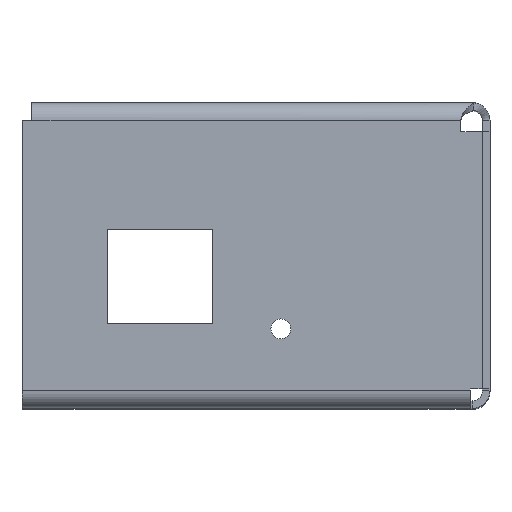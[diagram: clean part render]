
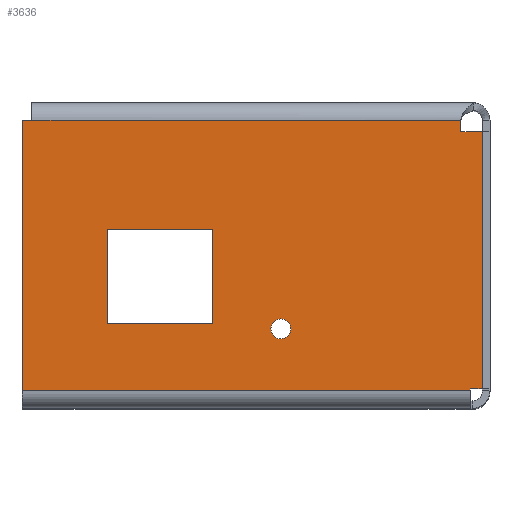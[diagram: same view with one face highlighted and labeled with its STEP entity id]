
A CAD part, top view. The second image highlights one B-rep face of the part: STEP entity #3636.
In plain terms, the highlighted planar face has unit normal (0, 0, 1).
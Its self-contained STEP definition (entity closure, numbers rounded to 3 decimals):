
#5 = CARTESIAN_POINT ( 'NONE',  ( -0.245, 23.91, 7.31 ) ) ;
#45 = CARTESIAN_POINT ( 'NONE',  ( -21.603, -0.85, 7.31 ) ) ;
#182 = FACE_BOUND ( 'NONE', #2610, .T. ) ;
#192 = VERTEX_POINT ( 'NONE', #1110 ) ;
#212 = VERTEX_POINT ( 'NONE', #5 ) ;
#303 = CARTESIAN_POINT ( 'NONE',  ( -0.245, 0., 7.31 ) ) ;
#306 = VERTEX_POINT ( 'NONE', #2447 ) ;
#316 = VECTOR ( 'NONE', #599, 1000. ) ;
#370 = CARTESIAN_POINT ( 'NONE',  ( 0.955, 0., 7.31 ) ) ;
#396 = VECTOR ( 'NONE', #1533, 1000. ) ;
#434 = EDGE_CURVE ( 'NONE', #1224, #3633, #1261, .T. ) ;
#523 = VECTOR ( 'NONE', #4212, 1000. ) ;
#572 = DIRECTION ( 'NONE',  ( 1., 0., 0. ) ) ;
#599 = DIRECTION ( 'NONE',  ( 0., -1., 0. ) ) ;
#669 = CARTESIAN_POINT ( 'NONE',  ( -31.4, 0., 7.31 ) ) ;
#675 = DIRECTION ( 'NONE',  ( 0., -1., 0. ) ) ;
#718 = ORIENTED_EDGE ( 'NONE', *, *, #3147, .F. ) ;
#731 = VERTEX_POINT ( 'NONE', #1472 ) ;
#806 = DIRECTION ( 'NONE',  ( 1., 0., 0. ) ) ;
#808 = CARTESIAN_POINT ( 'NONE',  ( -55.34, -8.6, 7.31 ) ) ;
#846 = EDGE_CURVE ( 'NONE', #3486, #2063, #3468, .T. ) ;
#954 = CARTESIAN_POINT ( 'NONE',  ( 0., 0., 7.31 ) ) ;
#959 = EDGE_CURVE ( 'NONE', #1501, #1224, #2314, .T. ) ;
#1110 = CARTESIAN_POINT ( 'NONE',  ( -31.4, 11.65, 7.31 ) ) ;
#1160 = CARTESIAN_POINT ( 'NONE',  ( -55.34, 25.35, 7.31 ) ) ;
#1162 = VECTOR ( 'NONE', #4500, 1000. ) ;
#1213 = EDGE_CURVE ( 'NONE', #4198, #4221, #2456, .T. ) ;
#1219 = ORIENTED_EDGE ( 'NONE', *, *, #1820, .F. ) ;
#1224 = VERTEX_POINT ( 'NONE', #1749 ) ;
#1261 = LINE ( 'NONE', #4099, #1162 ) ;
#1286 = CARTESIAN_POINT ( 'NONE',  ( -44.64, 0., 7.31 ) ) ;
#1404 = ORIENTED_EDGE ( 'NONE', *, *, #1958, .F. ) ;
#1424 = CARTESIAN_POINT ( 'NONE',  ( -54.09, 25.35, 7.31 ) ) ;
#1459 = LINE ( 'NONE', #2867, #2552 ) ;
#1472 = CARTESIAN_POINT ( 'NONE',  ( -44.64, 11.65, 7.31 ) ) ;
#1501 = VERTEX_POINT ( 'NONE', #2746 ) ;
#1533 = DIRECTION ( 'NONE',  ( 0., -1., 0. ) ) ;
#1539 = CARTESIAN_POINT ( 'NONE',  ( 2.435, 0., 7.31 ) ) ;
#1574 = DIRECTION ( 'NONE',  ( 0., 0., 1. ) ) ;
#1621 = LINE ( 'NONE', #1924, #2029 ) ;
#1630 = EDGE_LOOP ( 'NONE', ( #3665, #4051, #2413, #1404, #2948, #3138, #1847, #4173, #3705 ) ) ;
#1678 = EDGE_CURVE ( 'NONE', #731, #192, #4080, .T. ) ;
#1726 = CARTESIAN_POINT ( 'NONE',  ( 0., -8.6, 7.31 ) ) ;
#1748 = AXIS2_PLACEMENT_3D ( 'NONE', #3285, #1574, #806 ) ;
#1749 = CARTESIAN_POINT ( 'NONE',  ( 2.435, -8.36, 7.31 ) ) ;
#1796 = DIRECTION ( 'NONE',  ( 1., 0., 0. ) ) ;
#1801 = VECTOR ( 'NONE', #3490, 1000. ) ;
#1820 = EDGE_CURVE ( 'NONE', #306, #4252, #3089, .T. ) ;
#1847 = ORIENTED_EDGE ( 'NONE', *, *, #2291, .F. ) ;
#1870 = VECTOR ( 'NONE', #1796, 1000. ) ;
#1909 = EDGE_CURVE ( 'NONE', #2275, #212, #2444, .T. ) ;
#1924 = CARTESIAN_POINT ( 'NONE',  ( 0., 25.35, 7.31 ) ) ;
#1943 = VECTOR ( 'NONE', #572, 1000. ) ;
#1958 = EDGE_CURVE ( 'NONE', #2353, #2275, #1459, .T. ) ;
#1984 = LINE ( 'NONE', #1726, #523 ) ;
#1996 = DIRECTION ( 'NONE',  ( 1., 0., 0. ) ) ;
#2010 = ORIENTED_EDGE ( 'NONE', *, *, #1678, .T. ) ;
#2029 = VECTOR ( 'NONE', #1996, 1000. ) ;
#2030 = DIRECTION ( 'NONE',  ( 0., 0., 1. ) ) ;
#2036 = LINE ( 'NONE', #1286, #2773 ) ;
#2060 = CARTESIAN_POINT ( 'NONE',  ( 0., -0.17, 7.31 ) ) ;
#2063 = VERTEX_POINT ( 'NONE', #2187 ) ;
#2089 = DIRECTION ( 'NONE',  ( 1., 0., 0. ) ) ;
#2187 = CARTESIAN_POINT ( 'NONE',  ( -24.103, -0.85, 7.31 ) ) ;
#2275 = VERTEX_POINT ( 'NONE', #4239 ) ;
#2291 = EDGE_CURVE ( 'NONE', #2723, #4221, #1984, .T. ) ;
#2296 = DIRECTION ( 'NONE',  ( 1., 0., 0. ) ) ;
#2303 = CARTESIAN_POINT ( 'NONE',  ( 0., 11.65, 7.31 ) ) ;
#2314 = LINE ( 'NONE', #1539, #4067 ) ;
#2353 = VERTEX_POINT ( 'NONE', #1424 ) ;
#2410 = AXIS2_PLACEMENT_3D ( 'NONE', #3451, #3120, #2089 ) ;
#2413 = ORIENTED_EDGE ( 'NONE', *, *, #1909, .F. ) ;
#2428 = LINE ( 'NONE', #669, #316 ) ;
#2430 = VECTOR ( 'NONE', #675, 1000. ) ;
#2444 = LINE ( 'NONE', #303, #3971 ) ;
#2447 = CARTESIAN_POINT ( 'NONE',  ( -44.64, -0.17, 7.31 ) ) ;
#2456 = LINE ( 'NONE', #3286, #2430 ) ;
#2533 = CARTESIAN_POINT ( 'NONE',  ( 0.955, -8.6, 7.31 ) ) ;
#2552 = VECTOR ( 'NONE', #4298, 1000. ) ;
#2610 = EDGE_LOOP ( 'NONE', ( #2010, #3953, #1219, #718 ) ) ;
#2710 = CIRCLE ( 'NONE', #2410, 1.25 ) ;
#2723 = VERTEX_POINT ( 'NONE', #2533 ) ;
#2746 = CARTESIAN_POINT ( 'NONE',  ( 2.435, 23.91, 7.31 ) ) ;
#2773 = VECTOR ( 'NONE', #3022, 1000. ) ;
#2867 = CARTESIAN_POINT ( 'NONE',  ( 0., 25.35, 7.31 ) ) ;
#2891 = EDGE_LOOP ( 'NONE', ( #4458, #3414 ) ) ;
#2920 = AXIS2_PLACEMENT_3D ( 'NONE', #954, #2030, #2296 ) ;
#2944 = DIRECTION ( 'NONE',  ( 0., -1., 0. ) ) ;
#2948 = ORIENTED_EDGE ( 'NONE', *, *, #4368, .F. ) ;
#3015 = FACE_OUTER_BOUND ( 'NONE', #1630, .T. ) ;
#3022 = DIRECTION ( 'NONE',  ( 0., -1., 0. ) ) ;
#3089 = LINE ( 'NONE', #2060, #1801 ) ;
#3120 = DIRECTION ( 'NONE',  ( 0., 0., 1. ) ) ;
#3127 = LINE ( 'NONE', #3208, #1870 ) ;
#3138 = ORIENTED_EDGE ( 'NONE', *, *, #1213, .T. ) ;
#3147 = EDGE_CURVE ( 'NONE', #731, #306, #2036, .T. ) ;
#3208 = CARTESIAN_POINT ( 'NONE',  ( 0., 23.91, 7.31 ) ) ;
#3285 = CARTESIAN_POINT ( 'NONE',  ( -22.853, -0.85, 7.31 ) ) ;
#3286 = CARTESIAN_POINT ( 'NONE',  ( -55.34, 0., 7.31 ) ) ;
#3313 = LINE ( 'NONE', #370, #396 ) ;
#3414 = ORIENTED_EDGE ( 'NONE', *, *, #846, .F. ) ;
#3451 = CARTESIAN_POINT ( 'NONE',  ( -22.853, -0.85, 7.31 ) ) ;
#3468 = CIRCLE ( 'NONE', #1748, 1.25 ) ;
#3486 = VERTEX_POINT ( 'NONE', #45 ) ;
#3490 = DIRECTION ( 'NONE',  ( 1., 0., 0. ) ) ;
#3577 = CARTESIAN_POINT ( 'NONE',  ( -31.4, -0.17, 7.31 ) ) ;
#3633 = VERTEX_POINT ( 'NONE', #4115 ) ;
#3636 = ADVANCED_FACE ( 'NONE', ( #3015, #182, #3786 ), #4162, .T. ) ;
#3665 = ORIENTED_EDGE ( 'NONE', *, *, #959, .F. ) ;
#3701 = EDGE_CURVE ( 'NONE', #212, #1501, #3127, .T. ) ;
#3705 = ORIENTED_EDGE ( 'NONE', *, *, #434, .F. ) ;
#3786 = FACE_BOUND ( 'NONE', #2891, .T. ) ;
#3953 = ORIENTED_EDGE ( 'NONE', *, *, #4563, .T. ) ;
#3971 = VECTOR ( 'NONE', #4593, 1000. ) ;
#4051 = ORIENTED_EDGE ( 'NONE', *, *, #3701, .F. ) ;
#4067 = VECTOR ( 'NONE', #2944, 1000. ) ;
#4080 = LINE ( 'NONE', #2303, #1943 ) ;
#4099 = CARTESIAN_POINT ( 'NONE',  ( 0., -8.36, 7.31 ) ) ;
#4115 = CARTESIAN_POINT ( 'NONE',  ( 0.955, -8.36, 7.31 ) ) ;
#4162 = PLANE ( 'NONE',  #2920 ) ;
#4173 = ORIENTED_EDGE ( 'NONE', *, *, #4302, .F. ) ;
#4198 = VERTEX_POINT ( 'NONE', #1160 ) ;
#4212 = DIRECTION ( 'NONE',  ( -1., 0., 0. ) ) ;
#4221 = VERTEX_POINT ( 'NONE', #808 ) ;
#4239 = CARTESIAN_POINT ( 'NONE',  ( -0.245, 25.35, 7.31 ) ) ;
#4252 = VERTEX_POINT ( 'NONE', #3577 ) ;
#4298 = DIRECTION ( 'NONE',  ( 1., 0., 0. ) ) ;
#4302 = EDGE_CURVE ( 'NONE', #3633, #2723, #3313, .T. ) ;
#4368 = EDGE_CURVE ( 'NONE', #4198, #2353, #1621, .T. ) ;
#4458 = ORIENTED_EDGE ( 'NONE', *, *, #4576, .F. ) ;
#4500 = DIRECTION ( 'NONE',  ( -1., 0., 0. ) ) ;
#4563 = EDGE_CURVE ( 'NONE', #192, #4252, #2428, .T. ) ;
#4576 = EDGE_CURVE ( 'NONE', #2063, #3486, #2710, .T. ) ;
#4593 = DIRECTION ( 'NONE',  ( 0., -1., 0. ) ) ;
